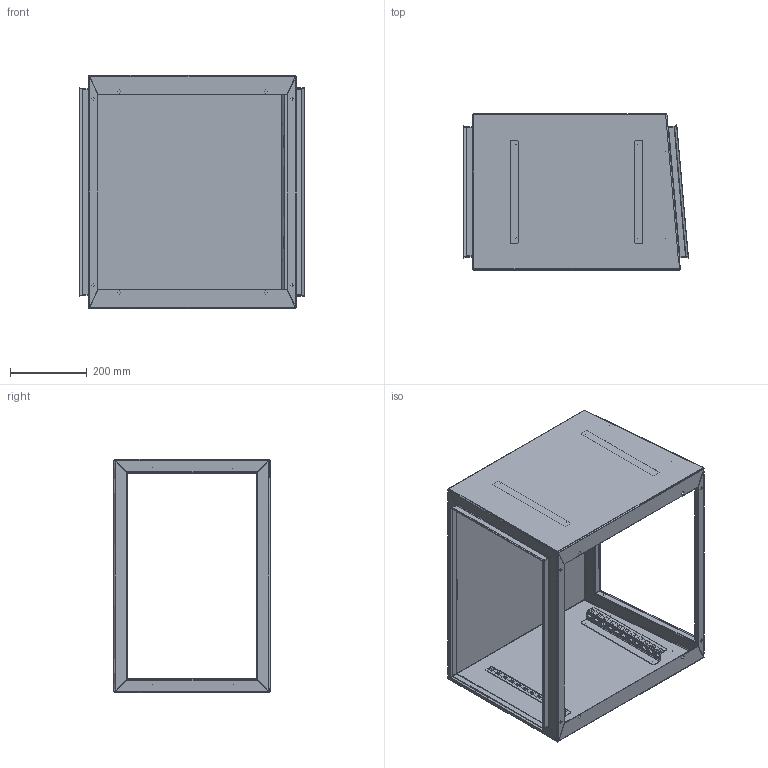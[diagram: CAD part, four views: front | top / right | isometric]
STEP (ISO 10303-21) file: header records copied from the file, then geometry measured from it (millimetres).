
FILE_DESCRIPTION((''),'2;1');
FILE_NAME('D:\scratch\ideas\36459_pst466.stp','2009-03-12T09:29:26', ('User'),('SDRC'),'I-DEAS Master Series 9','UNIX','Yes');
FILE_SCHEMA(('AUTOMOTIVE_DESIGN { 1 0 10303 214 0 1 1 1 }'));
Length unit declared in the file: inch
Products named in the file (8): 36459_pst466; 87557965; 87557970; 87557944; 87555448; 87557950; 87558406; 87411276
Assembly tree (10 placements, depth 2):
  36459_pst466
    87557965
    87557970
    87557944
    87555448
    87557950
    87558406  x4
    87411276
Bounding box: 586.16 x 407.42 x 608 mm (x, y, z)
Volume: 1958748.3 mm3; surface area: 2174465.1 mm2
Topology: 10 solids, 10 shells, 927 faces, 2439 edges, 1534 vertices
Faces by surface type: bspline 927
Entity records: 16354 total; most frequent: CARTESIAN_POINT 7920, ORIENTED_EDGE 2562, EDGE_CURVE 1281, VERTEX_POINT 778, QUASI_UNIFORM_CURVE 750, EDGE_LOOP 657, FACE_OUTER_BOUND 519, ADVANCED_FACE 519
